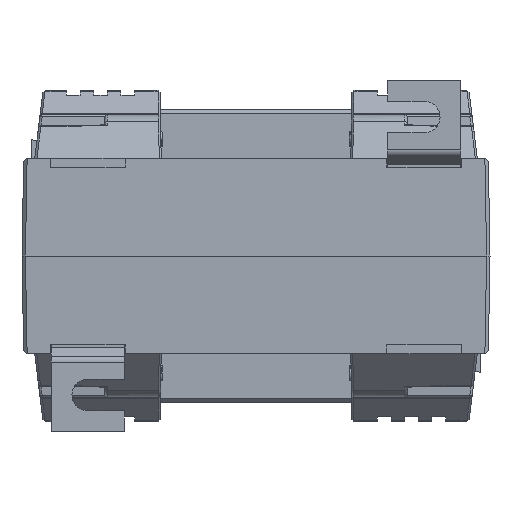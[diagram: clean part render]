
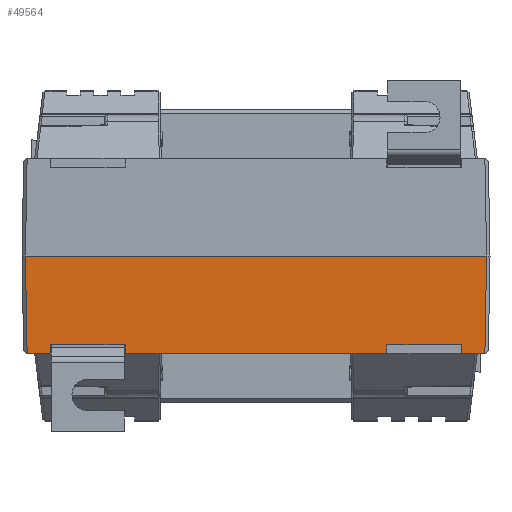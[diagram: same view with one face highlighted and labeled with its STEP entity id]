
A CAD part, front view. The second image highlights one B-rep face of the part: STEP entity #49564.
In plain terms, the highlighted planar face has unit normal (0, -1, -0.018).
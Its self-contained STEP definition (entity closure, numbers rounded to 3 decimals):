
#999=PLANE('',#52538);
#4386=FACE_OUTER_BOUND('',#7104,.T.);
#7104=EDGE_LOOP('',(#34766,#34767,#34768,#34769,#34770,#34771,#34772,#34773,
#34774,#34775,#34776,#34777,#34778,#34779));
#11266=LINE('',#87743,#16045);
#11270=LINE('',#87751,#16049);
#11274=LINE('',#87759,#16053);
#11420=LINE('',#88286,#16199);
#11421=LINE('',#88287,#16200);
#11422=LINE('',#88289,#16201);
#11423=LINE('',#88291,#16202);
#11424=LINE('',#88292,#16203);
#11425=LINE('',#88294,#16204);
#11426=LINE('',#88296,#16205);
#11427=LINE('',#88297,#16206);
#11428=LINE('',#88299,#16207);
#11429=LINE('',#88301,#16208);
#11430=LINE('',#88302,#16209);
#16045=VECTOR('',#57093,1000.);
#16049=VECTOR('',#57097,1000.);
#16053=VECTOR('',#57101,1000.);
#16199=VECTOR('',#57383,1000.);
#16200=VECTOR('',#57384,1000.);
#16201=VECTOR('',#57385,1000.);
#16202=VECTOR('',#57386,1000.);
#16203=VECTOR('',#57387,1000.);
#16204=VECTOR('',#57388,1000.);
#16205=VECTOR('',#57389,1000.);
#16206=VECTOR('',#57390,1000.);
#16207=VECTOR('',#57391,1000.);
#16208=VECTOR('',#57392,1000.);
#16209=VECTOR('',#57393,1000.);
#21246=VERTEX_POINT('',#87740);
#21247=VERTEX_POINT('',#87742);
#21250=VERTEX_POINT('',#87748);
#21251=VERTEX_POINT('',#87750);
#21254=VERTEX_POINT('',#87756);
#21255=VERTEX_POINT('',#87758);
#21430=VERTEX_POINT('',#88284);
#21431=VERTEX_POINT('',#88285);
#21432=VERTEX_POINT('',#88288);
#21433=VERTEX_POINT('',#88290);
#21434=VERTEX_POINT('',#88293);
#21435=VERTEX_POINT('',#88295);
#21436=VERTEX_POINT('',#88298);
#21437=VERTEX_POINT('',#88300);
#26375=EDGE_CURVE('',#21246,#21247,#11266,.T.);
#26379=EDGE_CURVE('',#21250,#21251,#11270,.T.);
#26383=EDGE_CURVE('',#21254,#21255,#11274,.T.);
#26594=EDGE_CURVE('',#21430,#21431,#11420,.T.);
#26595=EDGE_CURVE('',#21431,#21255,#11421,.T.);
#26596=EDGE_CURVE('',#21254,#21432,#11422,.T.);
#26597=EDGE_CURVE('',#21432,#21433,#11423,.T.);
#26598=EDGE_CURVE('',#21433,#21251,#11424,.T.);
#26599=EDGE_CURVE('',#21250,#21434,#11425,.T.);
#26600=EDGE_CURVE('',#21434,#21435,#11426,.T.);
#26601=EDGE_CURVE('',#21435,#21247,#11427,.T.);
#26602=EDGE_CURVE('',#21246,#21436,#11428,.T.);
#26603=EDGE_CURVE('',#21436,#21437,#11429,.T.);
#26604=EDGE_CURVE('',#21430,#21437,#11430,.T.);
#34766=ORIENTED_EDGE('',*,*,#26594,.T.);
#34767=ORIENTED_EDGE('',*,*,#26595,.T.);
#34768=ORIENTED_EDGE('',*,*,#26383,.F.);
#34769=ORIENTED_EDGE('',*,*,#26596,.T.);
#34770=ORIENTED_EDGE('',*,*,#26597,.T.);
#34771=ORIENTED_EDGE('',*,*,#26598,.T.);
#34772=ORIENTED_EDGE('',*,*,#26379,.F.);
#34773=ORIENTED_EDGE('',*,*,#26599,.T.);
#34774=ORIENTED_EDGE('',*,*,#26600,.T.);
#34775=ORIENTED_EDGE('',*,*,#26601,.T.);
#34776=ORIENTED_EDGE('',*,*,#26375,.F.);
#34777=ORIENTED_EDGE('',*,*,#26602,.T.);
#34778=ORIENTED_EDGE('',*,*,#26603,.T.);
#34779=ORIENTED_EDGE('',*,*,#26604,.F.);
#49564=ADVANCED_FACE('',(#4386),#999,.T.);
#52538=AXIS2_PLACEMENT_3D('',#88283,#57381,#57382);
#57093=DIRECTION('',(-1.,0.,0.));
#57097=DIRECTION('',(-1.,0.,0.));
#57101=DIRECTION('',(-1.,0.,0.));
#57381=DIRECTION('center_axis',(0.,-1.,-0.017));
#57382=DIRECTION('ref_axis',(0.,-0.017,1.));
#57383=DIRECTION('',(0.017,0.017,-1.));
#57384=DIRECTION('',(0.719,0.012,-0.695));
#57385=DIRECTION('',(0.009,-0.017,1.));
#57386=DIRECTION('',(1.,0.,0.));
#57387=DIRECTION('',(0.009,0.017,-1.));
#57388=DIRECTION('',(0.009,-0.017,1.));
#57389=DIRECTION('',(1.,0.,0.));
#57390=DIRECTION('',(0.009,0.017,-1.));
#57391=DIRECTION('',(0.719,-0.012,0.695));
#57392=DIRECTION('',(0.017,-0.017,1.));
#57393=DIRECTION('',(1.,0.,0.));
#87740=CARTESIAN_POINT('',(46.938,-57.651,-20.));
#87742=CARTESIAN_POINT('',(42.188,-57.651,-20.));
#87743=CARTESIAN_POINT('',(48.,-57.651,-20.));
#87748=CARTESIAN_POINT('',(26.812,-57.651,-20.));
#87750=CARTESIAN_POINT('',(-26.812,-57.651,-20.));
#87751=CARTESIAN_POINT('',(48.,-57.651,-20.));
#87756=CARTESIAN_POINT('',(-42.188,-57.651,-20.));
#87758=CARTESIAN_POINT('',(-46.938,-57.651,-20.));
#87759=CARTESIAN_POINT('',(48.,-57.651,-20.));
#88283=CARTESIAN_POINT('Origin',(48.,-58.,0.));
#88284=CARTESIAN_POINT('',(-47.3,-58.,0.));
#88285=CARTESIAN_POINT('',(-46.951,-57.651,-19.988));
#88286=CARTESIAN_POINT('',(-47.271,-57.971,-1.662));
#88287=CARTESIAN_POINT('',(-45.93,-57.634,-20.974));
#88288=CARTESIAN_POINT('',(-42.172,-57.682,-18.2));
#88289=CARTESIAN_POINT('',(-42.006,-58.014,0.785));
#88290=CARTESIAN_POINT('',(-26.828,-57.682,-18.2));
#88291=CARTESIAN_POINT('',(48.,-57.682,-18.2));
#88292=CARTESIAN_POINT('',(-26.981,-57.989,-0.654));
#88293=CARTESIAN_POINT('',(26.828,-57.682,-18.2));
#88294=CARTESIAN_POINT('',(26.988,-58.003,0.183));
#88295=CARTESIAN_POINT('',(42.172,-57.682,-18.2));
#88296=CARTESIAN_POINT('',(48.,-57.682,-18.2));
#88297=CARTESIAN_POINT('',(42.014,-57.999,-0.052));
#88298=CARTESIAN_POINT('',(46.951,-57.651,-19.988));
#88299=CARTESIAN_POINT('',(45.93,-57.634,-20.974));
#88300=CARTESIAN_POINT('',(47.3,-58.,0.));
#88301=CARTESIAN_POINT('',(47.3,-58.,0.012));
#88302=CARTESIAN_POINT('',(-48.,-58.,0.));
